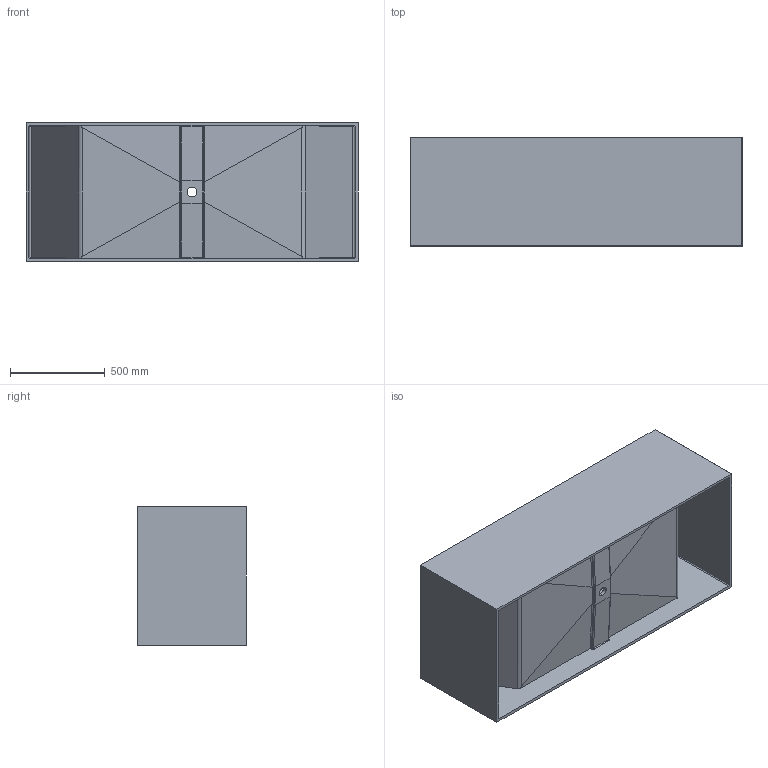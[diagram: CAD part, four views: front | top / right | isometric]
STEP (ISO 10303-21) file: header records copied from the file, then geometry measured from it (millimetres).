
FILE_DESCRIPTION (( 'STEP AP214' ), '1' );
FILE_NAME ('TC-S14.STEP', '2016-03-26T14:37:48', ( '旮僅薊襠http://www.deepbbs.org' ), ( 'http://www.deepbbs.org' ), 'SwSTEP 2.0', 'SolidWorks 2014', '' );
FILE_SCHEMA (( 'AUTOMOTIVE_DESIGN' ));
Length unit declared in the file: millimetre
Products named in the file (1): TC-S14
Bounding box: 1750 x 570 x 730 mm (x, y, z)
Volume: 82145936.3 mm3; surface area: 8576949.5 mm2
Topology: 1 solids, 1 shells, 80 faces, 206 edges, 130 vertices
Faces by surface type: cylinder 40, plane 32, bspline 6, cone 2
Entity records: 3744 total; most frequent: CARTESIAN_POINT 1921, ORIENTED_EDGE 412, DIRECTION 330, EDGE_CURVE 206, VERTEX_POINT 130, VECTOR 120, LINE 120, AXIS2_PLACEMENT_3D 105
